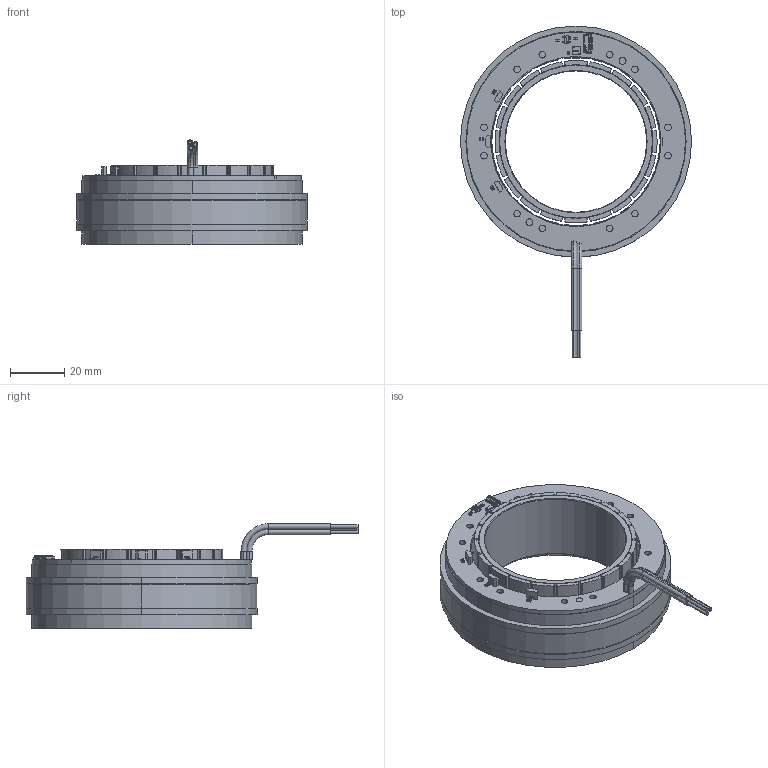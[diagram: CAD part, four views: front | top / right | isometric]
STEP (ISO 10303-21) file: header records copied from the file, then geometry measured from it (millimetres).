
FILE_DESCRIPTION (( 'STEP AP203' ), '1' );
FILE_NAME ('FL-85-13-»ô¶û.STEP', '2025-04-03T01:48:49', ( 'China' ), ( 'Microsoft' ), 'SwSTEP 2.0', 'SolidWorks 2020', '' );
FILE_SCHEMA (( 'CONFIG_CONTROL_DESIGN' ));
Length unit declared in the file: millimetre
Products named in the file (1): FL-85-13-齊嫌
Bounding box: 85 x 122.08 x 38.44 mm (x, y, z)
Volume: 76958.6 mm3; surface area: 41718.6 mm2
Topology: 161 solids, 161 shells, 6954 faces, 18063 edges, 11705 vertices
Faces by surface type: plane 3955, bspline 1907, cylinder 908, sphere 126, torus 46, cone 12
Entity records: 232484 total; most frequent: CARTESIAN_POINT 76648, ORIENTED_EDGE 35910, DIRECTION 24973, EDGE_CURVE 17955, VECTOR 11811, LINE 11811, VERTEX_POINT 11700, EDGE_LOOP 7421
